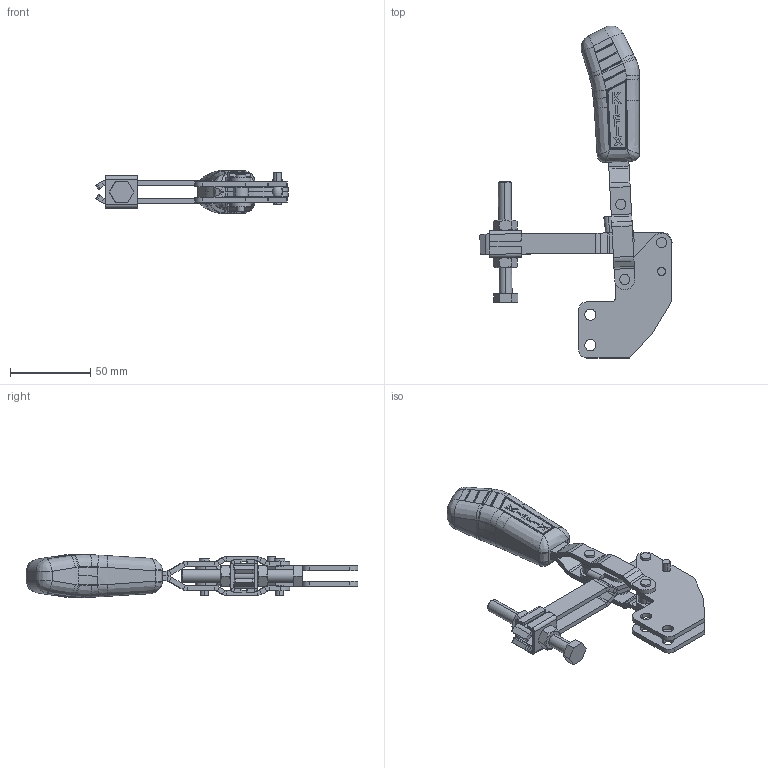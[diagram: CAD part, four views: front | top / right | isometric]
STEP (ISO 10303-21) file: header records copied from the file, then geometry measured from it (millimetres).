
FILE_DESCRIPTION (( 'STEP AP203' ), '1' );
FILE_NAME ('KF-211 RB.STEP', '2014-07-31T13:47:30', ( 'Ricardo' ), ( '' ), 'SwSTEP 2.0', 'SolidWorks 2013', '' );
FILE_SCHEMA (( 'CONFIG_CONTROL_DESIGN' ));
Length unit declared in the file: millimetre
Products named in the file (14): 05.20001; KF-211 RB; 01.10005; 04.10001; 06.50002; 04.20001; 02.11022; 14.10001; 03.14001_Direita; 11.50002; 03.14001_Esquerda; 12.50003; 06.50001; 07.60001
Assembly tree (20 placements, depth 2):
  KF-211 RB
    02.11022  x2
    03.14001_Direita
    03.14001_Esquerda
    06.50001  x2
    05.20001  x2
    01.10005  x2
    04.10001
    06.50002  x2
    04.20001
    14.10001  x2
    11.50002  x2
    12.50003
    07.60001
Bounding box: 119.94 x 207.31 x 27.02 mm (x, y, z)
Volume: 92005.2 mm3; surface area: 51905.7 mm2
Topology: 20 solids, 20 shells, 790 faces, 1915 edges, 1180 vertices
Faces by surface type: plane 372, cylinder 249, bspline 126, cone 38, torus 5
Entity records: 23667 total; most frequent: CARTESIAN_POINT 8472, ORIENTED_EDGE 3072, DIRECTION 2408, EDGE_CURVE 1536, VERTEX_POINT 960, AXIS2_PLACEMENT_3D 850, LINE 708, VECTOR 708
